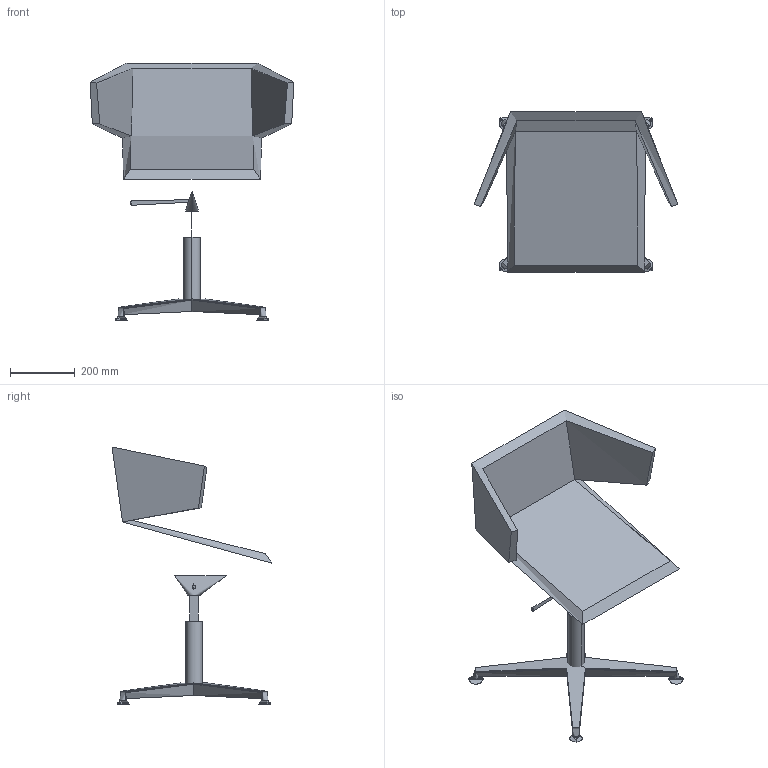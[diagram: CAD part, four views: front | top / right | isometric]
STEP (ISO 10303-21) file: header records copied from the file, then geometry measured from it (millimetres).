
FILE_DESCRIPTION(/* description */ (''),/* implementation_level */ '2;1');
FILE_NAME(/* name */ 'FLEXIP~3',/* time_stamp */ '2015-11-12T16:21:52+01:00',/* author */ (''),/* organization */ (''),/* preprocessor_version */ 'ST-DEVELOPER v15',/* originating_system */ '',/* authorisation */ '');
FILE_SCHEMA (('CONFIG_CONTROL_DESIGN'));
Length unit declared in the file: millimetre
Products named in the file (1): Document
Bounding box: 630.91 x 494.74 x 797.72 mm (x, y, z)
Volume: 19935545.1 mm3; surface area: 1273358.6 mm2
Topology: 2 solids, 14 shells, 110 faces, 245 edges, 138 vertices
Faces by surface type: bspline 94, plane 16
Entity records: 11386 total; most frequent: CARTESIAN_POINT 9932, ORIENTED_EDGE 428, EDGE_CURVE 234, VERTEX_POINT 136, B_SPLINE_CURVE_WITH_KNOTS 111, ADVANCED_FACE 110, FACE_OUTER_BOUND 110, EDGE_LOOP 110
